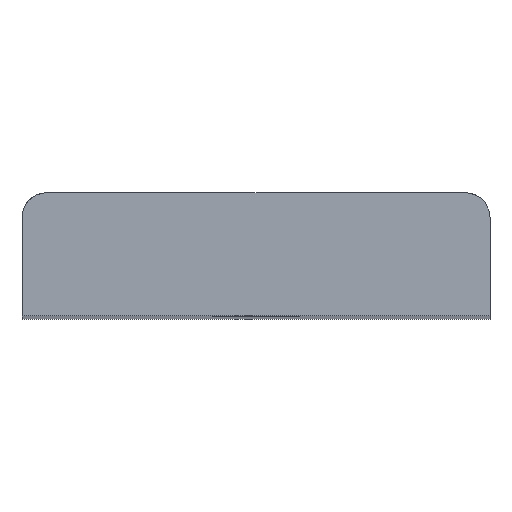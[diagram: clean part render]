
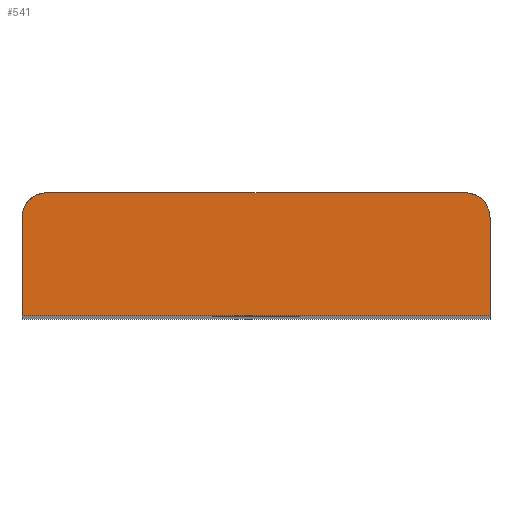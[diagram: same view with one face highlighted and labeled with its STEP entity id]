
A CAD part, top view. The second image highlights one B-rep face of the part: STEP entity #541.
In plain terms, the highlighted face is a extrusion surface.
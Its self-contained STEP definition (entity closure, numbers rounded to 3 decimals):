
#480=CARTESIAN_POINT('Control Point',(-19.,-5.,75.)) ;
#481=CARTESIAN_POINT('Control Point',(19.066,-5.,75.)) ;
#486=CARTESIAN_POINT('Control Point',(-17.,5.,75.)) ;
#487=CARTESIAN_POINT('Control Point',(-17.628,5.,75.)) ;
#488=CARTESIAN_POINT('Control Point',(-18.257,4.754,75.)) ;
#489=CARTESIAN_POINT('Control Point',(-18.754,4.257,75.)) ;
#490=CARTESIAN_POINT('Control Point',(-19.,3.628,75.)) ;
#491=CARTESIAN_POINT('Control Point',(-19.,3.,75.)) ;
#492=CARTESIAN_POINT('Vertex',(-17.,5.,75.)) ;
#494=CARTESIAN_POINT('Vertex',(-19.,3.,75.)) ;
#497=CARTESIAN_POINT('Line Origine',(-19.,0.,75.)) ;
#501=CARTESIAN_POINT('Vertex',(-19.,-5.,75.)) ;
#504=CARTESIAN_POINT('Line Origine',(0.,-5.,75.)) ;
#508=CARTESIAN_POINT('Vertex',(19.,-5.,75.)) ;
#511=CARTESIAN_POINT('Line Origine',(19.,0.,75.)) ;
#515=CARTESIAN_POINT('Vertex',(19.,3.,75.)) ;
#519=CARTESIAN_POINT('Control Point',(19.,3.,75.)) ;
#520=CARTESIAN_POINT('Control Point',(19.,3.628,75.)) ;
#521=CARTESIAN_POINT('Control Point',(18.754,4.257,75.)) ;
#522=CARTESIAN_POINT('Control Point',(18.257,4.754,75.)) ;
#523=CARTESIAN_POINT('Control Point',(17.628,5.,75.)) ;
#524=CARTESIAN_POINT('Control Point',(17.,5.,75.)) ;
#525=CARTESIAN_POINT('Vertex',(17.,5.,75.)) ;
#528=CARTESIAN_POINT('Line Origine',(0.,5.,75.)) ;
#482=DIRECTION('Vector Direction',(0.,1.,0.)) ;
#498=DIRECTION('Vector Direction',(0.,1.,0.)) ;
#505=DIRECTION('Vector Direction',(1.,0.,0.)) ;
#512=DIRECTION('Vector Direction',(0.,1.,0.)) ;
#529=DIRECTION('Vector Direction',(1.,0.,0.)) ;
#534=ORIENTED_EDGE('',*,*,#496,.T.) ;
#535=ORIENTED_EDGE('',*,*,#503,.T.) ;
#536=ORIENTED_EDGE('',*,*,#510,.T.) ;
#537=ORIENTED_EDGE('',*,*,#517,.T.) ;
#538=ORIENTED_EDGE('',*,*,#527,.T.) ;
#539=ORIENTED_EDGE('',*,*,#532,.T.) ;
#483=VECTOR('Extrusion Surface Vector',#482,1.) ;
#499=VECTOR('Line Direction',#498,1.) ;
#506=VECTOR('Line Direction',#505,1.) ;
#513=VECTOR('Line Direction',#512,1.) ;
#530=VECTOR('Line Direction',#529,1.) ;
#541=ADVANCED_FACE('Superficie.7',(#540),#484,.T.) ;
#479=B_SPLINE_CURVE_WITH_KNOTS('',1,(#480,#481),.UNSPECIFIED.,.F.,.U.,(2,2),(-19.,19.066),.UNSPECIFIED.) ;
#485=B_SPLINE_CURVE_WITH_KNOTS('',5,(#486,#487,#488,#489,#490,#491),.UNSPECIFIED.,.F.,.U.,(6,6),(0.,4.443),.UNSPECIFIED.) ;
#518=B_SPLINE_CURVE_WITH_KNOTS('',5,(#519,#520,#521,#522,#523,#524),.UNSPECIFIED.,.F.,.U.,(6,6),(0.,4.443),.UNSPECIFIED.) ;
#496=EDGE_CURVE('',#493,#495,#485,.T.) ;
#503=EDGE_CURVE('',#495,#502,#500,.F.) ;
#510=EDGE_CURVE('',#502,#509,#507,.T.) ;
#517=EDGE_CURVE('',#509,#516,#514,.T.) ;
#527=EDGE_CURVE('',#516,#526,#518,.T.) ;
#532=EDGE_CURVE('',#526,#493,#531,.F.) ;
#533=EDGE_LOOP('',(#534,#535,#536,#537,#538,#539)) ;
#540=FACE_OUTER_BOUND('',#533,.T.) ;
#500=LINE('Line',#497,#499) ;
#507=LINE('Line',#504,#506) ;
#514=LINE('Line',#511,#513) ;
#531=LINE('Line',#528,#530) ;
#484=SURFACE_OF_LINEAR_EXTRUSION('generated tabulated cylinder',#479,#483) ;
#493=VERTEX_POINT('',#492) ;
#495=VERTEX_POINT('',#494) ;
#502=VERTEX_POINT('',#501) ;
#509=VERTEX_POINT('',#508) ;
#516=VERTEX_POINT('',#515) ;
#526=VERTEX_POINT('',#525) ;
